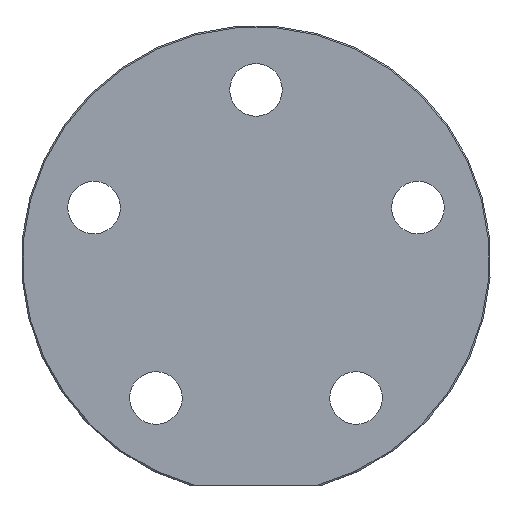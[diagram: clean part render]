
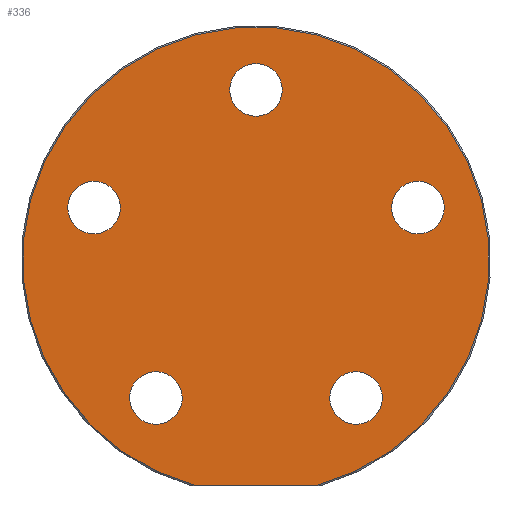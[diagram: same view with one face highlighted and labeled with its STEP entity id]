
A CAD part, front view. The second image highlights one B-rep face of the part: STEP entity #336.
In plain terms, the highlighted planar face has unit normal (0, -1, 0).
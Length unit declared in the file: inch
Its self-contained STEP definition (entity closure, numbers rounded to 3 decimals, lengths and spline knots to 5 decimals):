
#33=FACE_BOUND('',#93,.T.);
#34=FACE_BOUND('',#94,.T.);
#35=FACE_BOUND('',#95,.T.);
#36=FACE_BOUND('',#96,.T.);
#37=FACE_BOUND('',#97,.T.);
#48=CIRCLE('',#372,0.87);
#49=CIRCLE('',#373,0.098);
#50=CIRCLE('',#374,0.098);
#51=CIRCLE('',#375,0.098);
#52=CIRCLE('',#376,0.098);
#53=CIRCLE('',#377,0.098);
#71=FACE_OUTER_BOUND('',#92,.T.);
#92=EDGE_LOOP('',(#245,#246));
#93=EDGE_LOOP('',(#247));
#94=EDGE_LOOP('',(#248));
#95=EDGE_LOOP('',(#249));
#96=EDGE_LOOP('',(#250));
#97=EDGE_LOOP('',(#251));
#128=LINE('',#540,#143);
#143=VECTOR('',#419,0.3937);
#160=VERTEX_POINT('',#518);
#166=VERTEX_POINT('',#536);
#168=VERTEX_POINT('',#545);
#169=VERTEX_POINT('',#547);
#170=VERTEX_POINT('',#549);
#171=VERTEX_POINT('',#551);
#172=VERTEX_POINT('',#553);
#197=EDGE_CURVE('',#160,#166,#128,.T.);
#199=EDGE_CURVE('',#160,#166,#48,.T.);
#200=EDGE_CURVE('',#168,#168,#49,.T.);
#201=EDGE_CURVE('',#169,#169,#50,.T.);
#202=EDGE_CURVE('',#170,#170,#51,.T.);
#203=EDGE_CURVE('',#171,#171,#52,.T.);
#204=EDGE_CURVE('',#172,#172,#53,.T.);
#245=ORIENTED_EDGE('',*,*,#197,.T.);
#246=ORIENTED_EDGE('',*,*,#199,.F.);
#247=ORIENTED_EDGE('',*,*,#200,.T.);
#248=ORIENTED_EDGE('',*,*,#201,.T.);
#249=ORIENTED_EDGE('',*,*,#202,.T.);
#250=ORIENTED_EDGE('',*,*,#203,.T.);
#251=ORIENTED_EDGE('',*,*,#204,.T.);
#329=PLANE('',#371);
#336=ADVANCED_FACE('',(#71,#33,#34,#35,#36,#37),#329,.T.);
#371=AXIS2_PLACEMENT_3D('',#543,#422,#423);
#372=AXIS2_PLACEMENT_3D('',#544,#424,#425);
#373=AXIS2_PLACEMENT_3D('',#546,#426,#427);
#374=AXIS2_PLACEMENT_3D('',#548,#428,#429);
#375=AXIS2_PLACEMENT_3D('',#550,#430,#431);
#376=AXIS2_PLACEMENT_3D('',#552,#432,#433);
#377=AXIS2_PLACEMENT_3D('',#554,#434,#435);
#419=DIRECTION('',(1.,0.,0.));
#422=DIRECTION('center_axis',(0.,-1.,0.));
#423=DIRECTION('ref_axis',(0.,0.,-1.));
#424=DIRECTION('center_axis',(0.,1.,0.));
#425=DIRECTION('ref_axis',(0.,0.,-1.));
#426=DIRECTION('center_axis',(0.,1.,0.));
#427=DIRECTION('ref_axis',(0.309,0.,0.951));
#428=DIRECTION('center_axis',(0.,1.,0.));
#429=DIRECTION('ref_axis',(-0.809,0.,0.588));
#430=DIRECTION('center_axis',(0.,1.,0.));
#431=DIRECTION('ref_axis',(-0.809,0.,-0.588));
#432=DIRECTION('center_axis',(0.,1.,0.));
#433=DIRECTION('ref_axis',(0.309,0.,-0.951));
#434=DIRECTION('center_axis',(0.,1.,0.));
#435=DIRECTION('ref_axis',(1.,0.,0.));
#518=CARTESIAN_POINT('',(-0.2265,0.,-0.84));
#536=CARTESIAN_POINT('',(0.2265,0.,-0.84));
#540=CARTESIAN_POINT('',(0.,0.,-0.84));
#543=CARTESIAN_POINT('Origin',(0.,0.,0.875));
#544=CARTESIAN_POINT('Origin',(0.,0.,0.));
#545=CARTESIAN_POINT('',(-0.6342,0.,0.10302));
#546=CARTESIAN_POINT('Origin',(-0.60392,0.,
0.19623));
#547=CARTESIAN_POINT('',(-0.29396,0.,-0.57133));
#548=CARTESIAN_POINT('Origin',(-0.37324,0.,-0.51373));
#549=CARTESIAN_POINT('',(0.45253,0.,-0.45612));
#550=CARTESIAN_POINT('Origin',(0.37324,0.,-0.51373));
#551=CARTESIAN_POINT('',(0.57364,0.,0.28943));
#552=CARTESIAN_POINT('Origin',(0.60392,0.,0.19623));
#553=CARTESIAN_POINT('',(-0.098,0.,0.635));
#554=CARTESIAN_POINT('Origin',(0.,0.,0.635));
